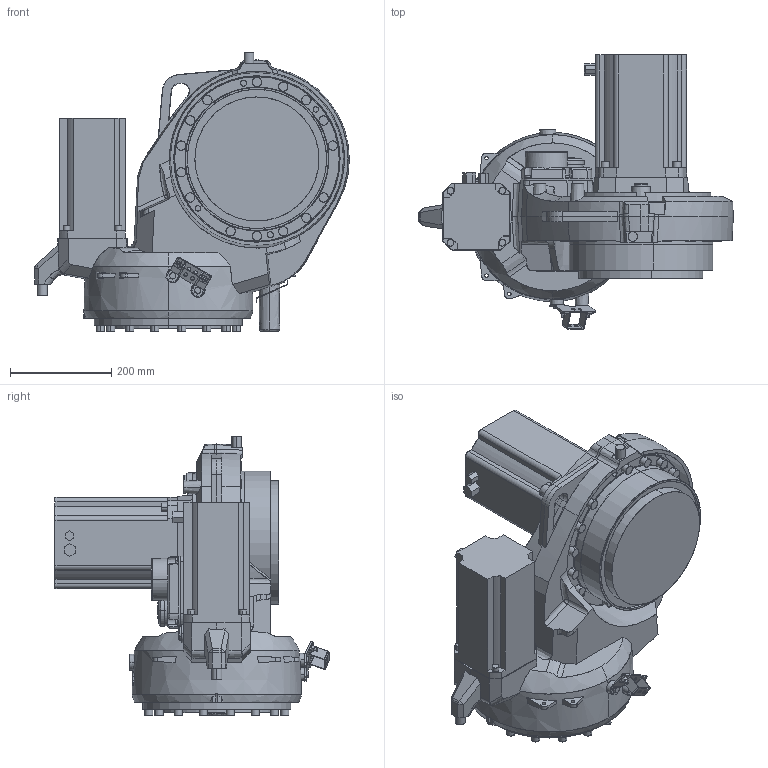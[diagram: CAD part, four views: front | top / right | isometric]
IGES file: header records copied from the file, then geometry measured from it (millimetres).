
Start section: SolidWorks IGES file using analytic representation for surfaces
Global section: file name: C:\Data\SAP_DOC\_2016-Q4_Lättmodeller RobCal\CAD Model_IRB4600_Rev04\IRB4600_40kg-255_IRC5_rev04\IRB4600_40kg-255_IRC5_rev04_IRC5_IGES_j\IRB4600_40kg-255_LINK1_CAD_rev04.IGS; native system: SolidWorks 2014; preprocessor: SolidWorks 2014; author: SEMAAXM; date: 161206.112901; units: millimetre
Bounding box: 621.5 x 541.21 x 552.5 mm (x, y, z)
Surface area: 1426338 mm2 (no closed solid volume)
Topology: 0 solids, 0 shells, 995 faces, 14894 edges, 14884 vertices
Faces by surface type: bspline 568, revolution 427
